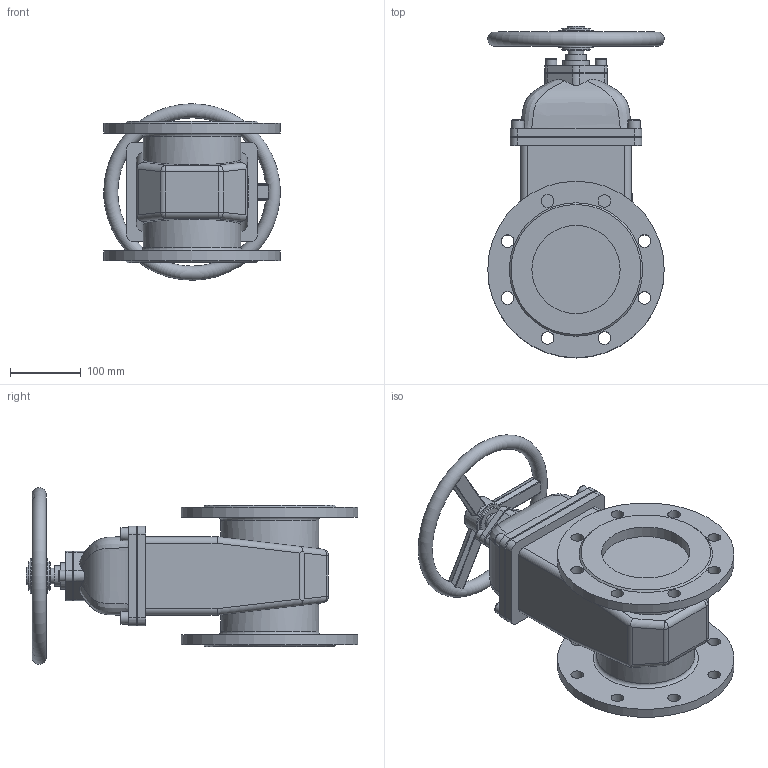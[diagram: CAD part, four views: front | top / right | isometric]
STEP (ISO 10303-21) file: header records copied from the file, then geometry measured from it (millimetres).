
FILE_DESCRIPTION(('STEP AP242'), '1');
FILE_NAME('GVWN1414N-2W-F-S blue Çàäâèæêà êëèíîâàÿ ñ íåâèäâèæíûì øòîêîì DN.ru Äó125 Ðó10-16', '', ('UNSPECIFIED'), ('UNSPECIFIED'), 'C3D Converter', 'C3D Toolkit', '');
FILE_SCHEMA(('AP242_MANAGED_MODEL_BASED_3D_ENGINEERING_MIM_LF { 1 0 10303 442 1 1 4 }'));
Length unit declared in the file: millimetre
Products named in the file (1): GVWN1414N-2W-F-S blue
Bounding box: 250 x 470 x 249.99 mm (x, y, z)
Volume: 8089957.5 mm3; surface area: 532925.3 mm2
Topology: 1 solids, 1 shells, 347 faces, 886 edges, 563 vertices
Faces by surface type: plane 151, cylinder 96, bspline 38, extrusion 27, torus 19, cone 8, sphere 8
Full cylindrical faces by diameter (mm): 10 x2, 12 x4, 16 x2, 18 x20, 22.2 x1, 25 x1, 29.6 x1, 37 x2, 40 x2, 50 x1, 125 x2, 138.75 x2, 250 x2
Entity records: 21311 total; most frequent: CARTESIAN_POINT 10878, ORIENTED_EDGE 1610, DIRECTION 1278, EDGE_CURVE 805, VERTEX_POINT 554, EDGE_LOOP 489, AXIS2_PLACEMENT_3D 448, FACE_BOUND 387
